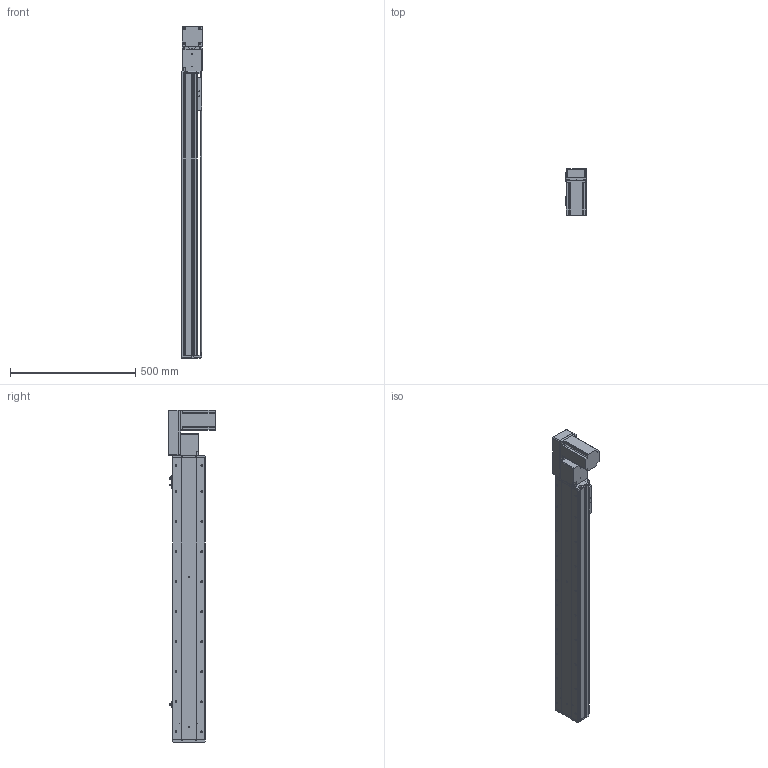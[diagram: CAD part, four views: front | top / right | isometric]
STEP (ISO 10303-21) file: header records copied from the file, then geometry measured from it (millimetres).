
FILE_DESCRIPTION (( 'STEP AP214' ), '1' );
FILE_NAME ('KSD130B-S900-MRB-CM.STEP', '2019-09-21T06:57:40', ( '微软用户' ), ( '微软中国' ), 'SwSTEP 2.0', 'SolidWorks 2014', '' );
FILE_SCHEMA (( 'AUTOMOTIVE_DESIGN' ));
Length unit declared in the file: millimetre
Products named in the file (12): 130宽模组马达安装板连板左右折同步带; 覜茼え100遵圉猾敕; U倰嫖萇EEㄜSX672; 130宽盖板半封闭同步带-900行程; 130宽马达安装板同步带右-改镜向_默认<按加工>; 130宽马达安装板同步带半封闭; 130宽同步带安装座半封闭; 130宽端盖同步带半封闭; 130宽底板半封闭同步带-900行程; KSD130B-S900-MRB-CM; 台达ECMA－C20807AS伺服电机; 130宽模组保护罩上下左右折-同步带
Assembly tree (13 placements, depth 2):
  KSD130B-S900-MRB-CM
    130宽底板半封闭同步带-900行程
    130宽端盖同步带半封闭
    130宽同步带安装座半封闭
    130宽马达安装板同步带半封闭
    130宽马达安装板同步带右-改镜向_默认<按加工>
    130宽盖板半封闭同步带-900行程
    U倰嫖萇EEㄜSX672  x3
    覜茼え100遵圉猾敕
    130宽模组马达安装板连板左右折同步带
    130宽模组保护罩上下左右折-同步带
    台达ECMA－C20807AS伺服电机
Bounding box: 81 x 184.8 x 1327 mm (x, y, z)
Volume: 4718658.5 mm3; surface area: 1278850.1 mm2
Topology: 14 solids, 14 shells, 1509 faces, 4301 edges, 2751 vertices
Faces by surface type: cylinder 720, plane 622, cone 167
Entity records: 49447 total; most frequent: CARTESIAN_POINT 9140, DIRECTION 7531, ORIENTED_EDGE 7254, EDGE_CURVE 3627, AXIS2_PLACEMENT_3D 2742, VERTEX_POINT 2375, VECTOR 2047, LINE 2047
